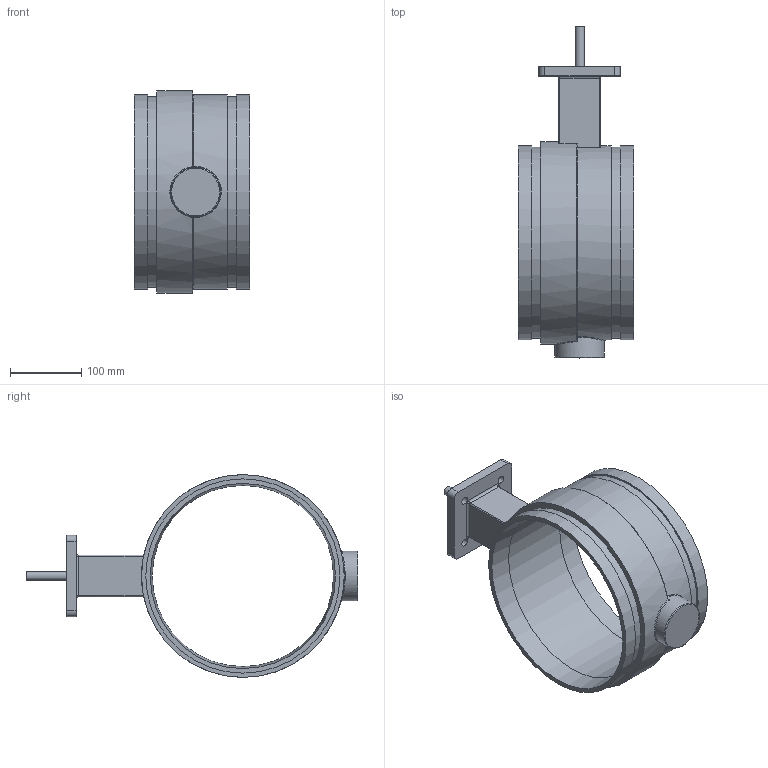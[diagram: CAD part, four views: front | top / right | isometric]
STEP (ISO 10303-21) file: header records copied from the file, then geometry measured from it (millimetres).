
FILE_DESCRIPTION(/* description */ ('Vic Series 461 Vic-300 MasterSeal SS Butterfly Valve','CAx-IF Rec.Pracs.---Representation and Presentation of Product Manufacturing Information (PMI)---4.0---2014-10-13'),/* implementation_level */ '2;1');
FILE_NAME(/* name */ 'C:\Users\kkamble\AppData\Roaming\Autodesk\ApplicationPlugins\Back Up\Victaulic_SS-OGS_Valve Butterfly Vic-300 Masterseal Bare_Series 461 (OGS)\Victaulic_SS-OGS_Valve Butterfly Vic-300 Masterseal Bare_Series 461 (OGS)_10 (250).stp',/* time_stamp */ '2020-09-02T14:48:41+05:00',/* author */ ('mchristi'),/* organization */ ('Victaulic'),/* preprocessor_version */ 'ST-DEVELOPER v17.2',/* originating_system */ 'Autodesk Inventor 2019',/* authorisation */ '');
FILE_SCHEMA (('AP242_MANAGED_MODEL_BASED_3D_ENGINEERING_MIM_LF { 1 0 10303 442 1 1 4 }'));
Length unit declared in the file: inch
Products named in the file (1): 461-10.0
Bounding box: 162.56 x 466.6 x 284.99 mm (x, y, z)
Volume: 1958166.5 mm3; surface area: 356678.8 mm2
Topology: 1 solids, 1 shells, 84 faces, 204 edges, 127 vertices
Faces by surface type: cylinder 34, plane 21, bspline 14, torus 11, sphere 2, cone 2
Full cylindrical faces by diameter (mm): 10.922 x4, 12.7 x1, 69.85 x1, 70.104 x1, 254.794 x1, 268.275 x2, 273.05 x3, 284.988 x1
Entity records: 3276 total; most frequent: CARTESIAN_POINT 1099, DIRECTION 447, ORIENTED_EDGE 406, EDGE_CURVE 203, AXIS2_PLACEMENT_3D 191, VERTEX_POINT 128, CIRCLE 107, EDGE_LOOP 101
